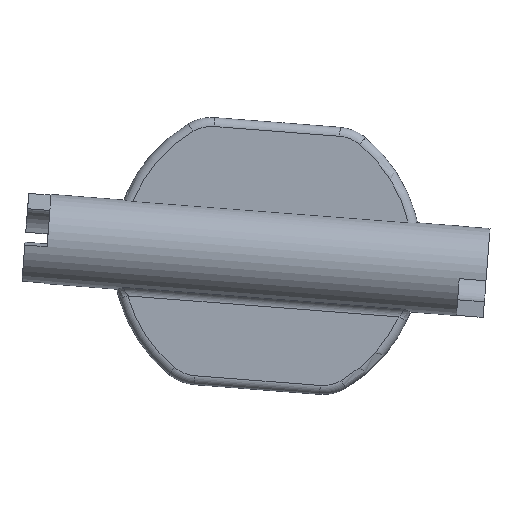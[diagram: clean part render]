
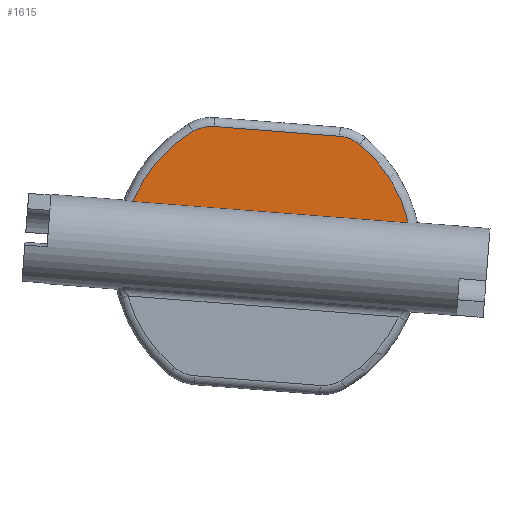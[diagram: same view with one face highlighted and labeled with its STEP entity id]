
A CAD part, front view. The second image highlights one B-rep face of the part: STEP entity #1615.
In plain terms, the highlighted planar face has unit normal (0, -1, 0).
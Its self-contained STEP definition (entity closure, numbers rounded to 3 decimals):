
#1=DIRECTION('',(0.997,0.,-0.077));
#2=VECTOR('',#1,30.925);
#3=CARTESIAN_POINT('',(1016.513,-1.,113.809));
#4=LINE('',#3,#2);
#5=CARTESIAN_POINT('',(1031.55,-1.,107.729));
#6=DIRECTION('',(0.,1.,0.));
#7=DIRECTION('',(-0.927,0.,0.375));
#8=AXIS2_PLACEMENT_3D('',#5,#6,#7);
#10=CARTESIAN_POINT('',(1025.293,-1.,118.225));
#11=DIRECTION('',(0.,1.,0.));
#12=DIRECTION('',(-0.512,0.,0.859));
#13=AXIS2_PLACEMENT_3D('',#10,#11,#12);
#15=DIRECTION('',(0.997,0.,-0.077));
#16=VECTOR('',#15,14.1);
#17=CARTESIAN_POINT('',(1025.602,-1.,122.213));
#18=LINE('',#17,#16);
#19=CARTESIAN_POINT('',(1039.35,-1.,117.135));
#20=DIRECTION('',(0.,1.,0.));
#21=DIRECTION('',(0.077,0.,0.997));
#22=AXIS2_PLACEMENT_3D('',#19,#20,#21);
#24=CARTESIAN_POINT('',(1031.55,-1.,107.729));
#25=DIRECTION('',(0.,1.,0.));
#26=DIRECTION('',(0.638,0.,0.77));
#27=AXIS2_PLACEMENT_3D('',#24,#25,#26);
#1411=CARTESIAN_POINT('',(1016.513,-1.,113.809));
#1412=CARTESIAN_POINT('',(1047.345,-1.,111.418));
#1413=VERTEX_POINT('',#1411);
#1414=VERTEX_POINT('',#1412);
#1588=CARTESIAN_POINT('',(1039.66,-1.,121.123));
#1589=CARTESIAN_POINT('',(1041.904,-1.,120.215));
#1590=VERTEX_POINT('',#1588);
#1591=VERTEX_POINT('',#1589);
#1592=CARTESIAN_POINT('',(1023.245,-1.,121.661));
#1593=VERTEX_POINT('',#1592);
#1594=CARTESIAN_POINT('',(1025.602,-1.,122.213));
#1595=VERTEX_POINT('',#1594);
#1596=CARTESIAN_POINT('',(0.,-1.,0.));
#1597=DIRECTION('',(0.,1.,0.));
#1598=DIRECTION('',(1.,0.,0.));
#1599=AXIS2_PLACEMENT_3D('',#1596,#1597,#1598);
#1600=PLANE('',#1599);
#1602=ORIENTED_EDGE('',*,*,#1601,.F.);
#1604=ORIENTED_EDGE('',*,*,#1603,.T.);
#1606=ORIENTED_EDGE('',*,*,#1605,.T.);
#1608=ORIENTED_EDGE('',*,*,#1607,.T.);
#1610=ORIENTED_EDGE('',*,*,#1609,.T.);
#1612=ORIENTED_EDGE('',*,*,#1611,.T.);
#1613=EDGE_LOOP('',(#1602,#1604,#1606,#1608,#1610,#1612));
#1614=FACE_OUTER_BOUND('',#1613,.F.);
#1615=ADVANCED_FACE('',(#1614),#1600,.F.);
#9=CIRCLE('',#8,16.22);
#14=CIRCLE('',#13,4.);
#23=CIRCLE('',#22,4.);
#28=CIRCLE('',#27,16.22);
#1601=EDGE_CURVE('',#1413,#1414,#4,.T.);
#1603=EDGE_CURVE('',#1413,#1593,#9,.T.);
#1605=EDGE_CURVE('',#1593,#1595,#14,.T.);
#1607=EDGE_CURVE('',#1595,#1590,#18,.T.);
#1609=EDGE_CURVE('',#1590,#1591,#23,.T.);
#1611=EDGE_CURVE('',#1591,#1414,#28,.T.);
